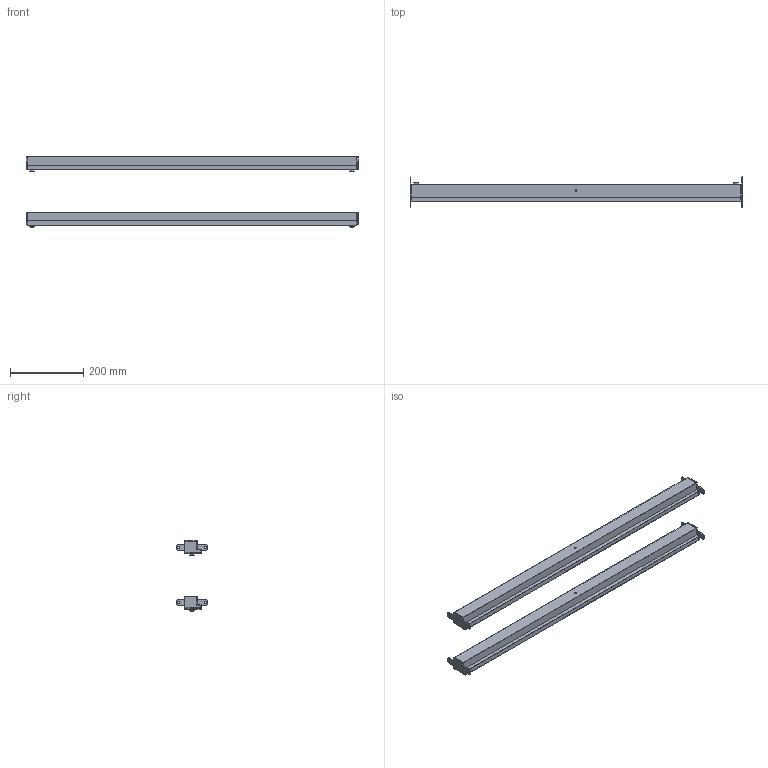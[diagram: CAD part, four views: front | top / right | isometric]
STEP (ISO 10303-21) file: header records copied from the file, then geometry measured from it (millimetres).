
FILE_DESCRIPTION (( 'STEP AP214' ), '1' );
FILE_NAME ('FO-00-PRHV-100 Ïðîôèëü ãîðèçîíòàëüíûé âñòðîåííîãî îòñåêà ãëóáèíà 1000 ìì (2 øò.óïàê.).STEP', '2025-07-31T07:16:20', ( '' ), ( '' ), 'SwSTEP 2.0', 'SolidWorks 2023', '' );
FILE_SCHEMA (( 'AUTOMOTIVE_DESIGN' ));
Length unit declared in the file: millimetre
Products named in the file (2): Профиль горизонтальный встроенного отсека 1000 мм; FO-00-PRHV-100 Профиль горизонтальный встроенного отсека глубина 1000 мм (2 шт.упак.)
Assembly tree (2 placements, depth 2):
  FO-00-PRHV-100 Профиль горизонтальный встроенного отсека глубина 1000 мм (2 шт.упак.)
    Профиль горизонтальный встроенного отсека 1000 мм  x2
Bounding box: 908 x 87 x 192.07 mm (x, y, z)
Volume: 432513.2 mm3; surface area: 551411.2 mm2
Topology: 2 solids, 2 shells, 1228 faces, 3528 edges, 2336 vertices
Faces by surface type: plane 800, cylinder 396, cone 32
Entity records: 20687 total; most frequent: CARTESIAN_POINT 3551, ORIENTED_EDGE 3528, DIRECTION 3414, EDGE_CURVE 1764, LINE 1352, VECTOR 1352, VERTEX_POINT 1168, AXIS2_PLACEMENT_3D 1031
